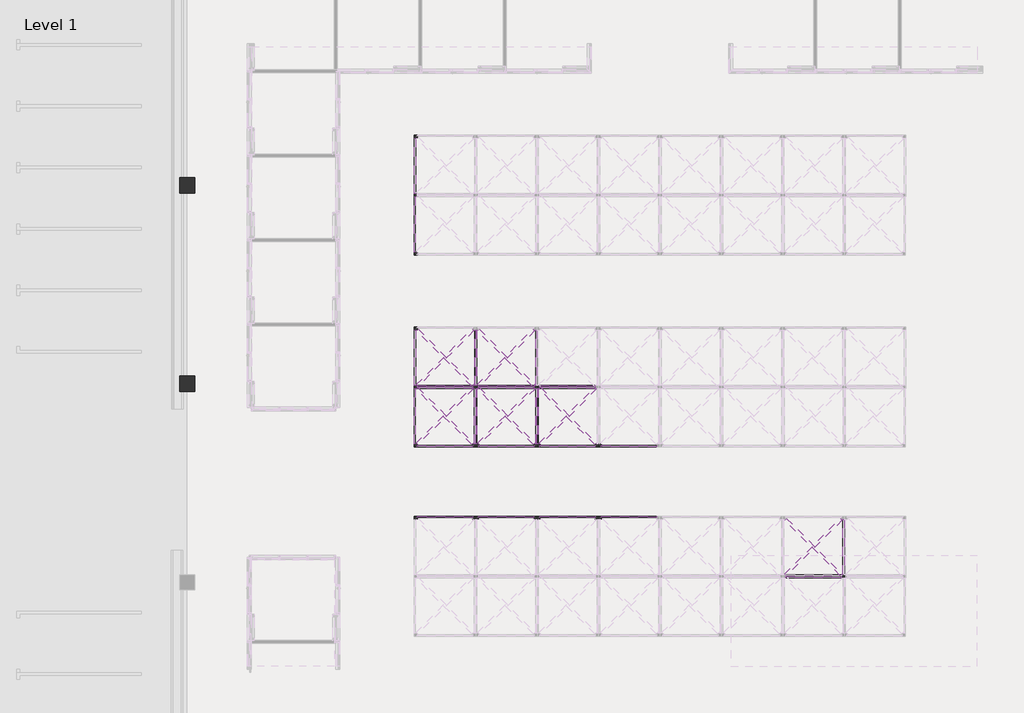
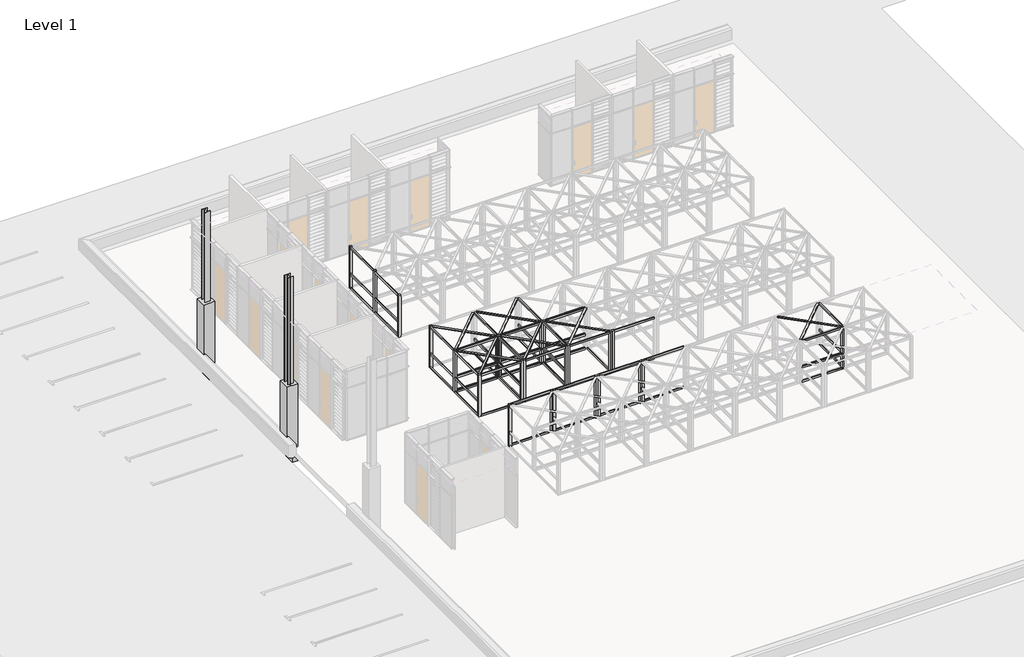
# One storey, part 21 of 32: 87 beams, 35 columns.
"""IFC4 building model written with IfcOpenShell, lengths in millimetres."""

from ifc_helpers import new_model, si_unit, point, frame, frame_2d, origin, place, context, project, spatial, polyline, circle_curve, trimmed, segment, composite_curve, outline, extrude, transform, mapped, element, save
from components import timber_gauged_nz_100_x_50_a05adcf6, timber_gauged_nz_100_x_50_e4b9d06e, timber_gauged_nz_100_x_50_66b63d81, timber_gauged_nz_100_x_50_718b6390, timber_gauged_nz_100_x_50_7774ab14, timber_gauged_nz_100_x_50_be6c7ca1, timber_gauged_nz_100_x_50_6be5a70a, timber_gauged_nz_100_x_50_7b7bee40, timber_gauged_nz_100_x_50_flat_212af973, timber_gauged_nz_100_x_50_flat_8016973c, column_timber_m_114x114_3b5997c2

model = new_model("IFC4")

# Units and contexts
model_context = context("Model", 3, world=origin())
ifc_project = project(units=[si_unit("LENGTHUNIT", "METRE", prefix="MILLI")], contexts=[model_context])

# Site, building, storey
site = spatial("IfcSite", under=ifc_project)
building = spatial("IfcBuilding", under=site)
storey = spatial("IfcBuildingStorey", under=building, Name="Level 1", Elevation=2800.0)

# Beams
placement = place(None, origin())
timber_gauged_nz_100_x_50_shape = timber_gauged_nz_100_x_50_a05adcf6(model_context)
element("IfcBeam", 1, ObjectType="Timber Gauged (NZ) : 100 x 50", at=placement, inside=storey, context=model_context, shape_type="MappedRepresentation", body=[
    mapped(timber_gauged_nz_100_x_50_shape, transform((-65204.0056755, -17582.1175809, 2847.0), x_axis=(-1.0, 0.0, 0.0), y_axis=(0.0, -1.0, 0.0), z_axis=(0.0, 0.0, 1.0))),
])
element("IfcBeam", 2, ObjectType="Timber Gauged (NZ) : 100 x 50", at=placement, inside=storey, context=model_context, shape_type="MappedRepresentation", body=[
    mapped(timber_gauged_nz_100_x_50_shape, transform((-79599.6556755, -10111.9011548, 2847.0), x_axis=(1.0, 0.0, 0.0), y_axis=(0.0, 1.0, 0.0), z_axis=(0.0, 0.0, 1.0))),
])
element("IfcBeam", 3, ObjectType="Timber Gauged (NZ) : 100 x 50", at=placement, inside=storey, context=model_context, shape_type="MappedRepresentation", body=[
    mapped(timber_gauged_nz_100_x_50_shape, transform((-77195.3056755, -10111.9011548, 2847.0), x_axis=(1.0, 0.0, 0.0), y_axis=(0.0, 1.0, 0.0), z_axis=(0.0, 0.0, 1.0))),
])
element("IfcBeam", 4, ObjectType="Timber Gauged (NZ) : 100 x 50", at=placement, inside=storey, context=model_context, shape_type="MappedRepresentation", body=[
    mapped(timber_gauged_nz_100_x_50_shape, transform((-74799.6556755, -10111.9011548, 2847.0), x_axis=(1.0, 0.0, 0.0), y_axis=(0.0, 1.0, 0.0), z_axis=(0.0, 0.0, 1.0))),
])
element("IfcBeam", 5, ObjectType="Timber Gauged (NZ) : 100 x 50", at=placement, inside=storey, context=model_context, shape_type="MappedRepresentation", body=[
    mapped(timber_gauged_nz_100_x_50_shape, transform((-74804.0056755, -10182.1175809, 2847.0), x_axis=(-1.0, 0.0, 0.0), y_axis=(0.0, -1.0, 0.0), z_axis=(0.0, 0.0, 1.0))),
])
element("IfcBeam", 6, ObjectType="Timber Gauged (NZ) : 100 x 50", at=placement, inside=storey, context=model_context, shape_type="MappedRepresentation", body=[
    mapped(timber_gauged_nz_100_x_50_shape, transform((-77208.3556755, -10182.1175809, 2847.0), x_axis=(-1.0, 0.0, 0.0), y_axis=(0.0, -1.0, 0.0), z_axis=(0.0, 0.0, 1.0))),
])
element("IfcBeam", 7, ObjectType="Timber Gauged (NZ) : 100 x 50", at=placement, inside=storey, context=model_context, shape_type="MappedRepresentation", body=[
    mapped(timber_gauged_nz_100_x_50_shape, transform((-79588.3556755, -10182.1175809, 2847.0), x_axis=(-1.0, 0.0, 0.0), y_axis=(0.0, -1.0, 0.0), z_axis=(0.0, 0.0, 1.0))),
])
timber_gauged_nz_100_x_50_2_shape = timber_gauged_nz_100_x_50_e4b9d06e(model_context)
element("IfcBeam", 8, ObjectType="Timber Gauged (NZ) : 100 x 50", at=placement, inside=storey, context=model_context, shape_type="MappedRepresentation", body=[
    mapped(timber_gauged_nz_100_x_50_2_shape, transform((-72386.4806755, -15229.1175809, 2847.0), x_axis=(-1.0, 0.0, 0.0), y_axis=(0.0, -1.0, 0.0), z_axis=(0.0, 0.0, 1.0))),
])
element("IfcBeam", 9, ObjectType="Timber Gauged (NZ) : 100 x 50", at=placement, inside=storey, context=model_context, shape_type="MappedRepresentation", body=[
    mapped(timber_gauged_nz_100_x_50_2_shape, transform((-74790.8306755, -15229.1175809, 2847.0), x_axis=(-1.0, 0.0, 0.0), y_axis=(0.0, -1.0, 0.0), z_axis=(0.0, 0.0, 1.0))),
])
element("IfcBeam", 10, ObjectType="Timber Gauged (NZ) : 100 x 50", at=placement, inside=storey, context=model_context, shape_type="MappedRepresentation", body=[
    mapped(timber_gauged_nz_100_x_50_2_shape, transform((-77195.1806755, -15229.1175809, 2847.0), x_axis=(-1.0, 0.0, 0.0), y_axis=(0.0, -1.0, 0.0), z_axis=(0.0, 0.0, 1.0))),
])
element("IfcBeam", 11, ObjectType="Timber Gauged (NZ) : 100 x 50", at=placement, inside=storey, context=model_context, shape_type="MappedRepresentation", body=[
    mapped(timber_gauged_nz_100_x_50_2_shape, transform((-79575.1806755, -15229.1175809, 2847.0), x_axis=(-1.0, 0.0, 0.0), y_axis=(0.0, -1.0, 0.0), z_axis=(0.0, 0.0, 1.0))),
])
element("IfcBeam", 12, ObjectType="Timber Gauged (NZ) : 100 x 50", at=placement, inside=storey, context=model_context, shape_type="MappedRepresentation", body=[
    mapped(timber_gauged_nz_100_x_50_2_shape, transform((-79612.8306755, -12464.9011548, 2847.0), x_axis=(1.0, 0.0, 0.0), y_axis=(0.0, 1.0, 0.0), z_axis=(0.0, 0.0, 1.0))),
])
element("IfcBeam", 13, ObjectType="Timber Gauged (NZ) : 100 x 50", at=placement, inside=storey, context=model_context, shape_type="MappedRepresentation", body=[
    mapped(timber_gauged_nz_100_x_50_2_shape, transform((-77208.4806755, -12464.9011548, 2847.0), x_axis=(1.0, 0.0, 0.0), y_axis=(0.0, 1.0, 0.0), z_axis=(0.0, 0.0, 1.0))),
])
element("IfcBeam", 14, ObjectType="Timber Gauged (NZ) : 100 x 50", at=placement, inside=storey, context=model_context, shape_type="MappedRepresentation", body=[
    mapped(timber_gauged_nz_100_x_50_2_shape, transform((-74812.8306755, -12464.9011548, 2847.0), x_axis=(1.0, 0.0, 0.0), y_axis=(0.0, 1.0, 0.0), z_axis=(0.0, 0.0, 1.0))),
])
element("IfcBeam", 15, ObjectType="Timber Gauged (NZ) : 100 x 50", at=placement, inside=storey, context=model_context, shape_type="MappedRepresentation", body=[
    mapped(timber_gauged_nz_100_x_50_2_shape, transform((-72412.8306755, -12464.9011548, 2847.0), x_axis=(1.0, 0.0, 0.0), y_axis=(0.0, 1.0, 0.0), z_axis=(0.0, 0.0, 1.0))),
])
timber_gauged_nz_100_x_50_3_shape = timber_gauged_nz_100_x_50_66b63d81(model_context)
element("IfcBeam", 16, ObjectType="Timber Gauged (NZ) : 100 x 50", at=placement, inside=storey, context=model_context, shape_type="MappedRepresentation", body=[
    mapped(timber_gauged_nz_100_x_50_3_shape, transform((-64027.5056755, -16405.6175809, 2847.0), x_axis=(0.0, 1.0, 0.0), y_axis=(-1.0, 0.0, 0.0), z_axis=(0.0, 0.0, 1.0))),
])
element("IfcBeam", 17, ObjectType="Timber Gauged (NZ) : 100 x 50", at=placement, inside=storey, context=model_context, shape_type="MappedRepresentation", body=[
    mapped(timber_gauged_nz_100_x_50_3_shape, transform((-80776.1556755, -11288.4011548, 2847.0), x_axis=(0.0, -1.0, 0.0), y_axis=(1.0, 0.0, 0.0), z_axis=(0.0, 0.0, 1.0))),
])
element("IfcBeam", 18, ObjectType="Timber Gauged (NZ) : 100 x 50", at=placement, inside=storey, context=model_context, shape_type="MappedRepresentation", body=[
    mapped(timber_gauged_nz_100_x_50_3_shape, transform((-78371.8056755, -11288.4011548, 2847.0), x_axis=(0.0, -1.0, 0.0), y_axis=(1.0, 0.0, 0.0), z_axis=(0.0, 0.0, 1.0))),
])
element("IfcBeam", 19, ObjectType="Timber Gauged (NZ) : 100 x 50", at=placement, inside=storey, context=model_context, shape_type="MappedRepresentation", body=[
    mapped(timber_gauged_nz_100_x_50_3_shape, transform((-75976.1556755, -11288.4011548, 2847.0), x_axis=(0.0, -1.0, 0.0), y_axis=(1.0, 0.0, 0.0), z_axis=(0.0, 0.0, 1.0))),
])
element("IfcBeam", 20, ObjectType="Timber Gauged (NZ) : 100 x 50", at=placement, inside=storey, context=model_context, shape_type="MappedRepresentation", body=[
    mapped(timber_gauged_nz_100_x_50_3_shape, transform((-76031.8556755, -9005.6175809, 2847.0), x_axis=(0.0, 1.0, 0.0), y_axis=(-1.0, 0.0, 0.0), z_axis=(0.0, 0.0, 1.0))),
])
element("IfcBeam", 21, ObjectType="Timber Gauged (NZ) : 100 x 50", at=placement, inside=storey, context=model_context, shape_type="MappedRepresentation", body=[
    mapped(timber_gauged_nz_100_x_50_3_shape, transform((-78411.8556755, -9005.6175809, 2847.0), x_axis=(0.0, 1.0, 0.0), y_axis=(-1.0, 0.0, 0.0), z_axis=(0.0, 0.0, 1.0))),
])
element("IfcBeam", 22, ObjectType="Timber Gauged (NZ) : 100 x 50", at=placement, inside=storey, context=model_context, shape_type="MappedRepresentation", body=[
    mapped(timber_gauged_nz_100_x_50_3_shape, transform((-80776.1556755, -3788.4011548, 2847.0), x_axis=(0.0, -1.0, 0.0), y_axis=(1.0, 0.0, 0.0), z_axis=(0.0, 0.0, 1.0))),
])
element("IfcBeam", 23, ObjectType="Timber Gauged (NZ) : 100 x 50", at=placement, inside=storey, context=model_context, shape_type="MappedRepresentation", body=[
    mapped(timber_gauged_nz_100_x_50_3_shape, transform((-78423.1556755, -11288.4011548, 2847.0), x_axis=(0.0, -1.0, 0.0), y_axis=(1.0, 0.0, 0.0), z_axis=(0.0, 0.0, 1.0))),
])
element("IfcBeam", 24, ObjectType="Timber Gauged (NZ) : 100 x 50", at=placement, inside=storey, context=model_context, shape_type="MappedRepresentation", body=[
    mapped(timber_gauged_nz_100_x_50_3_shape, transform((-76018.8056755, -11288.4011548, 2847.0), x_axis=(0.0, -1.0, 0.0), y_axis=(1.0, 0.0, 0.0), z_axis=(0.0, 0.0, 1.0))),
])
element("IfcBeam", 25, ObjectType="Timber Gauged (NZ) : 100 x 50", at=placement, inside=storey, context=model_context, shape_type="MappedRepresentation", body=[
    mapped(timber_gauged_nz_100_x_50_3_shape, transform((-73623.1556755, -11288.4011548, 2847.0), x_axis=(0.0, -1.0, 0.0), y_axis=(1.0, 0.0, 0.0), z_axis=(0.0, 0.0, 1.0))),
])
element("IfcBeam", 26, ObjectType="Timber Gauged (NZ) : 100 x 50", at=placement, inside=storey, context=model_context, shape_type="MappedRepresentation", body=[
    mapped(timber_gauged_nz_100_x_50_3_shape, transform((-78384.8556755, -9005.6175809, 2847.0), x_axis=(0.0, 1.0, 0.0), y_axis=(-1.0, 0.0, 0.0), z_axis=(0.0, 0.0, 1.0))),
])
element("IfcBeam", 27, ObjectType="Timber Gauged (NZ) : 100 x 50", at=placement, inside=storey, context=model_context, shape_type="MappedRepresentation", body=[
    mapped(timber_gauged_nz_100_x_50_3_shape, transform((-80764.8556755, -9005.6175809, 2847.0), x_axis=(0.0, 1.0, 0.0), y_axis=(-1.0, 0.0, 0.0), z_axis=(0.0, 0.0, 1.0))),
])
element("IfcBeam", 28, ObjectType="Timber Gauged (NZ) : 100 x 50", at=placement, inside=storey, context=model_context, shape_type="MappedRepresentation", body=[
    mapped(timber_gauged_nz_100_x_50_3_shape, transform((-80764.8556755, -1505.6175809, 2847.0), x_axis=(0.0, 1.0, 0.0), y_axis=(-1.0, 0.0, 0.0), z_axis=(0.0, 0.0, 1.0))),
])
timber_gauged_nz_100_x_50_4_shape = timber_gauged_nz_100_x_50_718b6390(model_context)
element("IfcBeam", 29, ObjectType="Timber Gauged (NZ) : 100 x 50", at=placement, inside=storey, context=model_context, shape_type="MappedRepresentation", body=[
    mapped(timber_gauged_nz_100_x_50_4_shape, transform((-65198.8056755, -17511.9011548, 3653.0), x_axis=(1.0, 0.0, 0.0), y_axis=(0.0, 1.0, 0.0), z_axis=(0.0, 0.0, 1.0))),
])
element("IfcBeam", 30, ObjectType="Timber Gauged (NZ) : 100 x 50", at=placement, inside=storey, context=model_context, shape_type="MappedRepresentation", body=[
    mapped(timber_gauged_nz_100_x_50_4_shape, transform((-65196.1556755, -17582.1175809, 5153.0), x_axis=(-1.0, 0.0, 0.0), y_axis=(0.0, -1.0, 0.0), z_axis=(0.0, 0.0, 1.0))),
])
element("IfcBeam", 31, ObjectType="Timber Gauged (NZ) : 100 x 50", at=placement, inside=storey, context=model_context, shape_type="MappedRepresentation", body=[
    mapped(timber_gauged_nz_100_x_50_4_shape, transform((-65196.1556755, -17582.1175809, 3653.0), x_axis=(-1.0, 0.0, 0.0), y_axis=(0.0, -1.0, 0.0), z_axis=(0.0, 0.0, 1.0))),
])
element("IfcBeam", 32, ObjectType="Timber Gauged (NZ) : 100 x 50", at=placement, inside=storey, context=model_context, shape_type="MappedRepresentation", body=[
    mapped(timber_gauged_nz_100_x_50_4_shape, transform((-79607.5056755, -10111.9011548, 5153.0), x_axis=(1.0, 0.0, 0.0), y_axis=(0.0, 1.0, 0.0), z_axis=(0.0, 0.0, 1.0))),
])
element("IfcBeam", 33, ObjectType="Timber Gauged (NZ) : 100 x 50", at=placement, inside=storey, context=model_context, shape_type="MappedRepresentation", body=[
    mapped(timber_gauged_nz_100_x_50_4_shape, transform((-79607.5056755, -10111.9011548, 3653.0), x_axis=(1.0, 0.0, 0.0), y_axis=(0.0, 1.0, 0.0), z_axis=(0.0, 0.0, 1.0))),
])
element("IfcBeam", 34, ObjectType="Timber Gauged (NZ) : 100 x 50", at=placement, inside=storey, context=model_context, shape_type="MappedRepresentation", body=[
    mapped(timber_gauged_nz_100_x_50_4_shape, transform((-77203.1556755, -10111.9011548, 5153.0), x_axis=(1.0, 0.0, 0.0), y_axis=(0.0, 1.0, 0.0), z_axis=(0.0, 0.0, 1.0))),
])
element("IfcBeam", 35, ObjectType="Timber Gauged (NZ) : 100 x 50", at=placement, inside=storey, context=model_context, shape_type="MappedRepresentation", body=[
    mapped(timber_gauged_nz_100_x_50_4_shape, transform((-77203.1556755, -10111.9011548, 3653.0), x_axis=(1.0, 0.0, 0.0), y_axis=(0.0, 1.0, 0.0), z_axis=(0.0, 0.0, 1.0))),
])
element("IfcBeam", 36, ObjectType="Timber Gauged (NZ) : 100 x 50", at=placement, inside=storey, context=model_context, shape_type="MappedRepresentation", body=[
    mapped(timber_gauged_nz_100_x_50_4_shape, transform((-74807.5056755, -10111.9011548, 5153.0), x_axis=(1.0, 0.0, 0.0), y_axis=(0.0, 1.0, 0.0), z_axis=(0.0, 0.0, 1.0))),
])
element("IfcBeam", 37, ObjectType="Timber Gauged (NZ) : 100 x 50", at=placement, inside=storey, context=model_context, shape_type="MappedRepresentation", body=[
    mapped(timber_gauged_nz_100_x_50_4_shape, transform((-74807.5056755, -10111.9011548, 3653.0), x_axis=(1.0, 0.0, 0.0), y_axis=(0.0, 1.0, 0.0), z_axis=(0.0, 0.0, 1.0))),
])
element("IfcBeam", 38, ObjectType="Timber Gauged (NZ) : 100 x 50", at=placement, inside=storey, context=model_context, shape_type="MappedRepresentation", body=[
    mapped(timber_gauged_nz_100_x_50_4_shape, transform((-74796.1556755, -10182.1175809, 5153.0), x_axis=(-1.0, 0.0, 0.0), y_axis=(0.0, -1.0, 0.0), z_axis=(0.0, 0.0, 1.0))),
])
element("IfcBeam", 39, ObjectType="Timber Gauged (NZ) : 100 x 50", at=placement, inside=storey, context=model_context, shape_type="MappedRepresentation", body=[
    mapped(timber_gauged_nz_100_x_50_4_shape, transform((-74796.1556755, -10182.1175809, 3653.0), x_axis=(-1.0, 0.0, 0.0), y_axis=(0.0, -1.0, 0.0), z_axis=(0.0, 0.0, 1.0))),
])
element("IfcBeam", 40, ObjectType="Timber Gauged (NZ) : 100 x 50", at=placement, inside=storey, context=model_context, shape_type="MappedRepresentation", body=[
    mapped(timber_gauged_nz_100_x_50_4_shape, transform((-77200.5056755, -10182.1175809, 5153.0), x_axis=(-1.0, 0.0, 0.0), y_axis=(0.0, -1.0, 0.0), z_axis=(0.0, 0.0, 1.0))),
])
element("IfcBeam", 41, ObjectType="Timber Gauged (NZ) : 100 x 50", at=placement, inside=storey, context=model_context, shape_type="MappedRepresentation", body=[
    mapped(timber_gauged_nz_100_x_50_4_shape, transform((-77200.5056755, -10182.1175809, 3653.0), x_axis=(-1.0, 0.0, 0.0), y_axis=(0.0, -1.0, 0.0), z_axis=(0.0, 0.0, 1.0))),
])
element("IfcBeam", 42, ObjectType="Timber Gauged (NZ) : 100 x 50", at=placement, inside=storey, context=model_context, shape_type="MappedRepresentation", body=[
    mapped(timber_gauged_nz_100_x_50_4_shape, transform((-79580.5056755, -10182.1175809, 5153.0), x_axis=(-1.0, 0.0, 0.0), y_axis=(0.0, -1.0, 0.0), z_axis=(0.0, 0.0, 1.0))),
])
element("IfcBeam", 43, ObjectType="Timber Gauged (NZ) : 100 x 50", at=placement, inside=storey, context=model_context, shape_type="MappedRepresentation", body=[
    mapped(timber_gauged_nz_100_x_50_4_shape, transform((-79580.5056755, -10182.1175809, 3653.0), x_axis=(-1.0, 0.0, 0.0), y_axis=(0.0, -1.0, 0.0), z_axis=(0.0, 0.0, 1.0))),
])
timber_gauged_nz_100_x_50_5_shape = timber_gauged_nz_100_x_50_7774ab14(model_context)
element("IfcBeam", 44, ObjectType="Timber Gauged (NZ) : 100 x 50", at=placement, inside=storey, context=model_context, shape_type="MappedRepresentation", body=[
    mapped(timber_gauged_nz_100_x_50_5_shape, transform((-72404.3056755, -15229.1175809, 5153.0), x_axis=(-1.0, 0.0, 0.0), y_axis=(0.0, -1.0, 0.0), z_axis=(0.0, 0.0, 1.0))),
])
element("IfcBeam", 45, ObjectType="Timber Gauged (NZ) : 100 x 50", at=placement, inside=storey, context=model_context, shape_type="MappedRepresentation", body=[
    mapped(timber_gauged_nz_100_x_50_5_shape, transform((-74808.6556755, -15229.1175809, 5153.0), x_axis=(-1.0, 0.0, 0.0), y_axis=(0.0, -1.0, 0.0), z_axis=(0.0, 0.0, 1.0))),
])
element("IfcBeam", 46, ObjectType="Timber Gauged (NZ) : 100 x 50", at=placement, inside=storey, context=model_context, shape_type="MappedRepresentation", body=[
    mapped(timber_gauged_nz_100_x_50_5_shape, transform((-77213.0056755, -15229.1175809, 5153.0), x_axis=(-1.0, 0.0, 0.0), y_axis=(0.0, -1.0, 0.0), z_axis=(0.0, 0.0, 1.0))),
])
element("IfcBeam", 47, ObjectType="Timber Gauged (NZ) : 100 x 50", at=placement, inside=storey, context=model_context, shape_type="MappedRepresentation", body=[
    mapped(timber_gauged_nz_100_x_50_5_shape, transform((-79593.0056755, -15229.1175809, 5153.0), x_axis=(-1.0, 0.0, 0.0), y_axis=(0.0, -1.0, 0.0), z_axis=(0.0, 0.0, 1.0))),
])
element("IfcBeam", 48, ObjectType="Timber Gauged (NZ) : 100 x 50", at=placement, inside=storey, context=model_context, shape_type="MappedRepresentation", body=[
    mapped(timber_gauged_nz_100_x_50_5_shape, transform((-79595.0056755, -12464.9011548, 5153.0), x_axis=(1.0, 0.0, 0.0), y_axis=(0.0, 1.0, 0.0), z_axis=(0.0, 0.0, 1.0))),
])
element("IfcBeam", 49, ObjectType="Timber Gauged (NZ) : 100 x 50", at=placement, inside=storey, context=model_context, shape_type="MappedRepresentation", body=[
    mapped(timber_gauged_nz_100_x_50_5_shape, transform((-77190.6556755, -12464.9011548, 5153.0), x_axis=(1.0, 0.0, 0.0), y_axis=(0.0, 1.0, 0.0), z_axis=(0.0, 0.0, 1.0))),
])
element("IfcBeam", 50, ObjectType="Timber Gauged (NZ) : 100 x 50", at=placement, inside=storey, context=model_context, shape_type="MappedRepresentation", body=[
    mapped(timber_gauged_nz_100_x_50_5_shape, transform((-74795.0056755, -12464.9011548, 5153.0), x_axis=(1.0, 0.0, 0.0), y_axis=(0.0, 1.0, 0.0), z_axis=(0.0, 0.0, 1.0))),
])
element("IfcBeam", 51, ObjectType="Timber Gauged (NZ) : 100 x 50", at=placement, inside=storey, context=model_context, shape_type="MappedRepresentation", body=[
    mapped(timber_gauged_nz_100_x_50_5_shape, transform((-72395.0056755, -12464.9011548, 5153.0), x_axis=(1.0, 0.0, 0.0), y_axis=(0.0, 1.0, 0.0), z_axis=(0.0, 0.0, 1.0))),
])
timber_gauged_nz_100_x_50_6_shape = timber_gauged_nz_100_x_50_be6c7ca1(model_context)
element("IfcBeam", 52, ObjectType="Timber Gauged (NZ) : 100 x 50", at=placement, inside=storey, context=model_context, shape_type="MappedRepresentation", body=[
    mapped(timber_gauged_nz_100_x_50_6_shape, transform((-64027.5056755, -16474.1175809, 5153.0), x_axis=(0.0, 1.0, 0.0), y_axis=(-1.0, 0.0, 0.0), z_axis=(0.0, 0.0, 1.0))),
])
element("IfcBeam", 53, ObjectType="Timber Gauged (NZ) : 100 x 50", at=placement, inside=storey, context=model_context, shape_type="MappedRepresentation", body=[
    mapped(timber_gauged_nz_100_x_50_6_shape, transform((-80776.1556755, -11219.9011548, 5153.0), x_axis=(0.0, -1.0, 0.0), y_axis=(1.0, 0.0, 0.0), z_axis=(0.0, 0.0, 1.0))),
])
element("IfcBeam", 54, ObjectType="Timber Gauged (NZ) : 100 x 50", at=placement, inside=storey, context=model_context, shape_type="MappedRepresentation", body=[
    mapped(timber_gauged_nz_100_x_50_6_shape, transform((-78371.8056755, -11219.9011548, 5153.0), x_axis=(0.0, -1.0, 0.0), y_axis=(1.0, 0.0, 0.0), z_axis=(0.0, 0.0, 1.0))),
])
element("IfcBeam", 55, ObjectType="Timber Gauged (NZ) : 100 x 50", at=placement, inside=storey, context=model_context, shape_type="MappedRepresentation", body=[
    mapped(timber_gauged_nz_100_x_50_6_shape, transform((-75976.1556755, -11219.9011548, 5153.0), x_axis=(0.0, -1.0, 0.0), y_axis=(1.0, 0.0, 0.0), z_axis=(0.0, 0.0, 1.0))),
])
element("IfcBeam", 56, ObjectType="Timber Gauged (NZ) : 100 x 50", at=placement, inside=storey, context=model_context, shape_type="MappedRepresentation", body=[
    mapped(timber_gauged_nz_100_x_50_6_shape, transform((-76031.8556755, -9074.1175809, 5153.0), x_axis=(0.0, 1.0, 0.0), y_axis=(-1.0, 0.0, 0.0), z_axis=(0.0, 0.0, 1.0))),
])
element("IfcBeam", 57, ObjectType="Timber Gauged (NZ) : 100 x 50", at=placement, inside=storey, context=model_context, shape_type="MappedRepresentation", body=[
    mapped(timber_gauged_nz_100_x_50_6_shape, transform((-78411.8556755, -9074.1175809, 5153.0), x_axis=(0.0, 1.0, 0.0), y_axis=(-1.0, 0.0, 0.0), z_axis=(0.0, 0.0, 1.0))),
])
element("IfcBeam", 58, ObjectType="Timber Gauged (NZ) : 100 x 50", at=placement, inside=storey, context=model_context, shape_type="MappedRepresentation", body=[
    mapped(timber_gauged_nz_100_x_50_6_shape, transform((-80776.1556755, -3719.9011548, 5153.0), x_axis=(0.0, -1.0, 0.0), y_axis=(1.0, 0.0, 0.0), z_axis=(0.0, 0.0, 1.0))),
])
timber_gauged_nz_100_x_50_7_shape = timber_gauged_nz_100_x_50_6be5a70a(model_context)
element("IfcBeam", 59, ObjectType="Timber Gauged (NZ) : 100 x 50", at=placement, inside=storey, context=model_context, shape_type="MappedRepresentation", body=[
    mapped(timber_gauged_nz_100_x_50_7_shape, transform((-78423.1556755, -11264.9011548, 5153.0), x_axis=(0.0, -1.0, 0.0), y_axis=(1.0, 0.0, 0.0), z_axis=(0.0, 0.0, 1.0))),
])
element("IfcBeam", 60, ObjectType="Timber Gauged (NZ) : 100 x 50", at=placement, inside=storey, context=model_context, shape_type="MappedRepresentation", body=[
    mapped(timber_gauged_nz_100_x_50_7_shape, transform((-76018.8056755, -11264.9011548, 5153.0), x_axis=(0.0, -1.0, 0.0), y_axis=(1.0, 0.0, 0.0), z_axis=(0.0, 0.0, 1.0))),
])
element("IfcBeam", 61, ObjectType="Timber Gauged (NZ) : 100 x 50", at=placement, inside=storey, context=model_context, shape_type="MappedRepresentation", body=[
    mapped(timber_gauged_nz_100_x_50_7_shape, transform((-78384.8556755, -9029.1175809, 5153.0), x_axis=(0.0, 1.0, 0.0), y_axis=(-1.0, 0.0, 0.0), z_axis=(0.0, 0.0, 1.0))),
])
element("IfcBeam", 62, ObjectType="Timber Gauged (NZ) : 100 x 50", at=placement, inside=storey, context=model_context, shape_type="MappedRepresentation", body=[
    mapped(timber_gauged_nz_100_x_50_7_shape, transform((-80764.8556755, -9029.1175809, 5153.0), x_axis=(0.0, 1.0, 0.0), y_axis=(-1.0, 0.0, 0.0), z_axis=(0.0, 0.0, 1.0))),
])
element("IfcBeam", 63, ObjectType="Timber Gauged (NZ) : 100 x 50", at=placement, inside=storey, context=model_context, shape_type="MappedRepresentation", body=[
    mapped(timber_gauged_nz_100_x_50_7_shape, transform((-80764.8556755, -1529.1175809, 5153.0), x_axis=(0.0, 1.0, 0.0), y_axis=(-1.0, 0.0, 0.0), z_axis=(0.0, 0.0, 1.0))),
])
timber_gauged_nz_100_x_50_8_shape = timber_gauged_nz_100_x_50_7b7bee40(model_context)
element("IfcBeam", 64, ObjectType="Timber Gauged (NZ) : 100 x 50", at=placement, inside=storey, context=model_context, shape_type="MappedRepresentation", body=[
    mapped(timber_gauged_nz_100_x_50_8_shape, transform((-64027.5056755, -16349.1175809, 3653.0), x_axis=(0.0, 1.0, 0.0), y_axis=(-1.0, 0.0, 0.0), z_axis=(0.0, 0.0, 1.0))),
])
element("IfcBeam", 65, ObjectType="Timber Gauged (NZ) : 100 x 50", at=placement, inside=storey, context=model_context, shape_type="MappedRepresentation", body=[
    mapped(timber_gauged_nz_100_x_50_8_shape, transform((-80776.1556755, -11344.9011548, 3653.0), x_axis=(0.0, -1.0, 0.0), y_axis=(1.0, 0.0, 0.0), z_axis=(0.0, 0.0, 1.0))),
])
element("IfcBeam", 66, ObjectType="Timber Gauged (NZ) : 100 x 50", at=placement, inside=storey, context=model_context, shape_type="MappedRepresentation", body=[
    mapped(timber_gauged_nz_100_x_50_8_shape, transform((-78371.8056755, -11344.9011548, 3653.0), x_axis=(0.0, -1.0, 0.0), y_axis=(1.0, 0.0, 0.0), z_axis=(0.0, 0.0, 1.0))),
])
element("IfcBeam", 67, ObjectType="Timber Gauged (NZ) : 100 x 50", at=placement, inside=storey, context=model_context, shape_type="MappedRepresentation", body=[
    mapped(timber_gauged_nz_100_x_50_8_shape, transform((-75976.1556755, -11344.9011548, 3653.0), x_axis=(0.0, -1.0, 0.0), y_axis=(1.0, 0.0, 0.0), z_axis=(0.0, 0.0, 1.0))),
])
element("IfcBeam", 68, ObjectType="Timber Gauged (NZ) : 100 x 50", at=placement, inside=storey, context=model_context, shape_type="MappedRepresentation", body=[
    mapped(timber_gauged_nz_100_x_50_8_shape, transform((-76031.8556755, -8949.1175809, 3653.0), x_axis=(0.0, 1.0, 0.0), y_axis=(-1.0, 0.0, 0.0), z_axis=(0.0, 0.0, 1.0))),
])
element("IfcBeam", 69, ObjectType="Timber Gauged (NZ) : 100 x 50", at=placement, inside=storey, context=model_context, shape_type="MappedRepresentation", body=[
    mapped(timber_gauged_nz_100_x_50_8_shape, transform((-78411.8556755, -8949.1175809, 3653.0), x_axis=(0.0, 1.0, 0.0), y_axis=(-1.0, 0.0, 0.0), z_axis=(0.0, 0.0, 1.0))),
])
element("IfcBeam", 70, ObjectType="Timber Gauged (NZ) : 100 x 50", at=placement, inside=storey, context=model_context, shape_type="MappedRepresentation", body=[
    mapped(timber_gauged_nz_100_x_50_8_shape, transform((-80776.1556755, -3844.9011548, 3653.0), x_axis=(0.0, -1.0, 0.0), y_axis=(1.0, 0.0, 0.0), z_axis=(0.0, 0.0, 1.0))),
])
element("IfcBeam", 71, ObjectType="Timber Gauged (NZ) : 100 x 50", at=placement, inside=storey, context=model_context, shape_type="MappedRepresentation", body=[
    mapped(timber_gauged_nz_100_x_50_7_shape, transform((-78423.1556755, -11264.7011548, 3653.0), x_axis=(0.0, -1.0, 0.0), y_axis=(1.0, 0.0, 0.0), z_axis=(0.0, 0.0, 1.0))),
])
element("IfcBeam", 72, ObjectType="Timber Gauged (NZ) : 100 x 50", at=placement, inside=storey, context=model_context, shape_type="MappedRepresentation", body=[
    mapped(timber_gauged_nz_100_x_50_7_shape, transform((-76018.8056755, -11264.7011548, 3653.0), x_axis=(0.0, -1.0, 0.0), y_axis=(1.0, 0.0, 0.0), z_axis=(0.0, 0.0, 1.0))),
])
element("IfcBeam", 73, ObjectType="Timber Gauged (NZ) : 100 x 50", at=placement, inside=storey, context=model_context, shape_type="MappedRepresentation", body=[
    mapped(timber_gauged_nz_100_x_50_7_shape, transform((-78384.8556755, -9029.3175809, 3653.0), x_axis=(0.0, 1.0, 0.0), y_axis=(-1.0, 0.0, 0.0), z_axis=(0.0, 0.0, 1.0))),
])
element("IfcBeam", 74, ObjectType="Timber Gauged (NZ) : 100 x 50", at=placement, inside=storey, context=model_context, shape_type="MappedRepresentation", body=[
    mapped(timber_gauged_nz_100_x_50_7_shape, transform((-80764.8556755, -9029.3175809, 3653.0), x_axis=(0.0, 1.0, 0.0), y_axis=(-1.0, 0.0, 0.0), z_axis=(0.0, 0.0, 1.0))),
])
element("IfcBeam", 75, ObjectType="Timber Gauged (NZ) : 100 x 50", at=placement, inside=storey, context=model_context, shape_type="MappedRepresentation", body=[
    mapped(timber_gauged_nz_100_x_50_7_shape, transform((-80764.8556755, -1529.3175809, 3653.0), x_axis=(0.0, 1.0, 0.0), y_axis=(-1.0, 0.0, 0.0), z_axis=(0.0, 0.0, 1.0))),
])
timber_gauged_nz_100_x_50_flat_shape = timber_gauged_nz_100_x_50_flat_212af973(model_context)
element("IfcBeam", 76, ObjectType="Timber Gauged (NZ) : 100 x 50 Flat", at=placement, inside=storey, context=model_context, shape_type="MappedRepresentation", body=[
    mapped(timber_gauged_nz_100_x_50_flat_shape, transform((-65208.2463365, -16410.5048659, 5176.5), x_axis=(-0.7071067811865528, -0.7071067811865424, 0.0), y_axis=(0.7071067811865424, -0.7071067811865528, 0.0), z_axis=(0.0, 0.0, 1.0))),
])
element("IfcBeam", 77, ObjectType="Timber Gauged (NZ) : 100 x 50 Flat", at=placement, inside=storey, context=model_context, shape_type="MappedRepresentation", body=[
    mapped(timber_gauged_nz_100_x_50_flat_shape, transform((-79595.4150144, -11283.5138698, 5176.5), x_axis=(0.707106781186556, 0.7071067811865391, 0.0), y_axis=(-0.7071067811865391, 0.707106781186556, 0.0), z_axis=(0.0, 0.0, 1.0))),
])
element("IfcBeam", 78, ObjectType="Timber Gauged (NZ) : 100 x 50 Flat", at=placement, inside=storey, context=model_context, shape_type="MappedRepresentation", body=[
    mapped(timber_gauged_nz_100_x_50_flat_shape, transform((-77191.0650144, -11283.5138698, 5176.5), x_axis=(0.707106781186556, 0.7071067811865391, 0.0), y_axis=(-0.7071067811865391, 0.707106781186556, 0.0), z_axis=(0.0, 0.0, 1.0))),
])
element("IfcBeam", 79, ObjectType="Timber Gauged (NZ) : 100 x 50 Flat", at=placement, inside=storey, context=model_context, shape_type="MappedRepresentation", body=[
    mapped(timber_gauged_nz_100_x_50_flat_shape, transform((-74795.4150144, -11283.5138698, 5176.5), x_axis=(0.707106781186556, 0.7071067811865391, 0.0), y_axis=(-0.7071067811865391, 0.707106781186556, 0.0), z_axis=(0.0, 0.0, 1.0))),
])
element("IfcBeam", 80, ObjectType="Timber Gauged (NZ) : 100 x 50 Flat", at=placement, inside=storey, context=model_context, shape_type="MappedRepresentation", body=[
    mapped(timber_gauged_nz_100_x_50_flat_shape, transform((-77212.5963365, -9010.5048659, 5176.5), x_axis=(-0.7071067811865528, -0.7071067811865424, 0.0), y_axis=(0.7071067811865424, -0.7071067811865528, 0.0), z_axis=(0.0, 0.0, 1.0))),
])
element("IfcBeam", 81, ObjectType="Timber Gauged (NZ) : 100 x 50 Flat", at=placement, inside=storey, context=model_context, shape_type="MappedRepresentation", body=[
    mapped(timber_gauged_nz_100_x_50_flat_shape, transform((-79592.5963365, -9010.5048659, 5176.5), x_axis=(-0.7071067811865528, -0.7071067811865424, 0.0), y_axis=(0.7071067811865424, -0.7071067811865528, 0.0), z_axis=(0.0, 0.0, 1.0))),
])
timber_gauged_nz_100_x_50_flat_2_shape = timber_gauged_nz_100_x_50_flat_8016973c(model_context)
element("IfcBeam", 82, ObjectType="Timber Gauged (NZ) : 100 x 50 Flat", at=placement, inside=storey, context=model_context, shape_type="MappedRepresentation", body=[
    mapped(timber_gauged_nz_100_x_50_flat_2_shape, transform((-65154.5062211, -16455.7596999, 5176.5), x_axis=(-0.7071067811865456, 0.7071067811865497, 0.0), y_axis=(-0.7071067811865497, -0.7071067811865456, 0.0), z_axis=(0.0, 0.0, 1.0))),
])
element("IfcBeam", 83, ObjectType="Timber Gauged (NZ) : 100 x 50 Flat", at=placement, inside=storey, context=model_context, shape_type="MappedRepresentation", body=[
    mapped(timber_gauged_nz_100_x_50_flat_2_shape, transform((-79649.1551298, -11238.2590359, 5176.5), x_axis=(0.7071067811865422, -0.7071067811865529, 0.0), y_axis=(0.7071067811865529, 0.7071067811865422, 0.0), z_axis=(0.0, 0.0, 1.0))),
])
element("IfcBeam", 84, ObjectType="Timber Gauged (NZ) : 100 x 50 Flat", at=placement, inside=storey, context=model_context, shape_type="MappedRepresentation", body=[
    mapped(timber_gauged_nz_100_x_50_flat_2_shape, transform((-77244.8051298, -11238.2590359, 5176.5), x_axis=(0.7071067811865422, -0.7071067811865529, 0.0), y_axis=(0.7071067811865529, 0.7071067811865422, 0.0), z_axis=(0.0, 0.0, 1.0))),
])
element("IfcBeam", 85, ObjectType="Timber Gauged (NZ) : 100 x 50 Flat", at=placement, inside=storey, context=model_context, shape_type="MappedRepresentation", body=[
    mapped(timber_gauged_nz_100_x_50_flat_2_shape, transform((-74849.1551298, -11238.2590359, 5176.5), x_axis=(0.7071067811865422, -0.7071067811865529, 0.0), y_axis=(0.7071067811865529, 0.7071067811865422, 0.0), z_axis=(0.0, 0.0, 1.0))),
])
element("IfcBeam", 86, ObjectType="Timber Gauged (NZ) : 100 x 50 Flat", at=placement, inside=storey, context=model_context, shape_type="MappedRepresentation", body=[
    mapped(timber_gauged_nz_100_x_50_flat_2_shape, transform((-77158.8562211, -9055.7596999, 5176.5), x_axis=(-0.7071067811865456, 0.7071067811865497, 0.0), y_axis=(-0.7071067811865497, -0.7071067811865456, 0.0), z_axis=(0.0, 0.0, 1.0))),
])
element("IfcBeam", 87, ObjectType="Timber Gauged (NZ) : 100 x 50 Flat", at=placement, inside=storey, context=model_context, shape_type="MappedRepresentation", body=[
    mapped(timber_gauged_nz_100_x_50_flat_2_shape, transform((-79538.8562211, -9055.7596999, 5176.5), x_axis=(-0.7071067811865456, 0.7071067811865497, 0.0), y_axis=(-0.7071067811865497, -0.7071067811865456, 0.0), z_axis=(0.0, 0.0, 1.0))),
])

# Columns
element("IfcColumn", 88, ObjectType="Column Concrete-Square (M) : 600 x 600mm", at=placement, inside=storey, context=model_context, shape_type="SweptSolid", body=[
    extrude(outline(polyline([(2000.0, -89359.8408447), (6400.0, -89359.8408447), (6400.0, -89959.8408447), (2800.0, -89959.8408447), (2800.0, -89652.2528943), (2000.0, -89652.2528943), (2000.0, -89359.8408447)])), frame((0.0, -10325.9199596, 0.0), z_axis=(0.0, 1.0, 0.0), x_axis=(0.0, 0.0, 1.0)), (0.0, 0.0, 1.0), 600.0),
])
element("IfcColumn", 89, ObjectType="Column Concrete-Square (M) : 600 x 600mm", at=placement, inside=storey, context=model_context, shape_type="SweptSolid", body=[
    extrude(outline(polyline([(2000.0, -89359.8408447), (6400.0, -89359.8408447), (6400.0, -89959.8408447), (2800.0, -89959.8408447), (2800.0, -89652.2528943), (2000.0, -89652.2528943), (2000.0, -89359.8408447)])), frame((0.0, -2565.9199596, 0.0), z_axis=(0.0, 1.0, 0.0), x_axis=(0.0, 0.0, 1.0)), (0.0, 0.0, 1.0), 600.0),
])
column_timber_m_114x114_shape = column_timber_m_114x114_3b5997c2(model_context)
element("IfcColumn", 90, ObjectType="Column Timber (M) : 114x114", at=placement, inside=storey, context=model_context, shape_type="MappedRepresentation", body=[
    mapped(column_timber_m_114x114_shape, transform((-64048.1056755, -17545.5511548, 0.0), x_axis=(1.0, 0.0, 0.0), y_axis=(0.0, 1.0, 0.0), z_axis=(0.0, 0.0, 1.0))),
])
element("IfcColumn", 91, ObjectType="Column Timber (M) : 114x114", at=placement, inside=storey, context=model_context, shape_type="MappedRepresentation", body=[
    mapped(column_timber_m_114x114_shape, transform((-64061.1556755, -17548.4675809, 0.0), x_axis=(-1.0, 0.0, 0.0), y_axis=(0.0, -1.0, 0.0), z_axis=(0.0, 0.0, 1.0))),
])
element("IfcColumn", 92, ObjectType="Column Timber (M) : 114x114", at=placement, inside=storey, context=model_context, shape_type="MappedRepresentation", body=[
    mapped(column_timber_m_114x114_shape, transform((-73542.5056755, -15262.7675809, 0.0), x_axis=(-1.0, 0.0, 0.0), y_axis=(0.0, -1.0, 0.0), z_axis=(0.0, 0.0, 1.0))),
])
element("IfcColumn", 93, ObjectType="Column Timber (M) : 114x114", at=placement, inside=storey, context=model_context, shape_type="MappedRepresentation", body=[
    mapped(column_timber_m_114x114_shape, transform((-73661.1556755, -15262.7675809, 0.0), x_axis=(-1.0, 0.0, 0.0), y_axis=(0.0, -1.0, 0.0), z_axis=(0.0, 0.0, 1.0))),
])
element("IfcColumn", 94, ObjectType="Column Timber (M) : 114x114", at=placement, inside=storey, context=model_context, shape_type="MappedRepresentation", body=[
    mapped(column_timber_m_114x114_shape, transform((-75946.8556755, -15262.7675809, 0.0), x_axis=(-1.0, 0.0, 0.0), y_axis=(0.0, -1.0, 0.0), z_axis=(0.0, 0.0, 1.0))),
])
element("IfcColumn", 95, ObjectType="Column Timber (M) : 114x114", at=placement, inside=storey, context=model_context, shape_type="MappedRepresentation", body=[
    mapped(column_timber_m_114x114_shape, transform((-76065.5056755, -15262.7675809, 0.0), x_axis=(-1.0, 0.0, 0.0), y_axis=(0.0, -1.0, 0.0), z_axis=(0.0, 0.0, 1.0))),
])
element("IfcColumn", 96, ObjectType="Column Timber (M) : 114x114", at=placement, inside=storey, context=model_context, shape_type="MappedRepresentation", body=[
    mapped(column_timber_m_114x114_shape, transform((-78351.2056755, -15262.7675809, 0.0), x_axis=(-1.0, 0.0, 0.0), y_axis=(0.0, -1.0, 0.0), z_axis=(0.0, 0.0, 1.0))),
])
element("IfcColumn", 97, ObjectType="Column Timber (M) : 114x114", at=placement, inside=storey, context=model_context, shape_type="MappedRepresentation", body=[
    mapped(column_timber_m_114x114_shape, transform((-78445.5056755, -15262.7675809, 0.0), x_axis=(-1.0, 0.0, 0.0), y_axis=(0.0, -1.0, 0.0), z_axis=(0.0, 0.0, 1.0))),
])
element("IfcColumn", 98, ObjectType="Column Timber (M) : 114x114", at=placement, inside=storey, context=model_context, shape_type="MappedRepresentation", body=[
    mapped(column_timber_m_114x114_shape, transform((-80731.2056755, -15262.7675809, 0.0), x_axis=(-1.0, 0.0, 0.0), y_axis=(0.0, -1.0, 0.0), z_axis=(0.0, 0.0, 1.0))),
])
element("IfcColumn", 99, ObjectType="Column Timber (M) : 114x114", at=placement, inside=storey, context=model_context, shape_type="MappedRepresentation", body=[
    mapped(column_timber_m_114x114_shape, transform((-80742.5056755, -12431.2511548, 0.0), x_axis=(1.0, 0.0, 0.0), y_axis=(0.0, 1.0, 0.0), z_axis=(0.0, 0.0, 1.0))),
])
element("IfcColumn", 100, ObjectType="Column Timber (M) : 114x114", at=placement, inside=storey, context=model_context, shape_type="MappedRepresentation", body=[
    mapped(column_timber_m_114x114_shape, transform((-80742.5056755, -10145.5511548, 0.0), x_axis=(1.0, 0.0, 0.0), y_axis=(0.0, 1.0, 0.0), z_axis=(0.0, 0.0, 1.0))),
])
element("IfcColumn", 101, ObjectType="Column Timber (M) : 114x114", at=placement, inside=storey, context=model_context, shape_type="MappedRepresentation", body=[
    mapped(column_timber_m_114x114_shape, transform((-78456.8056755, -10145.5511548, 0.0), x_axis=(1.0, 0.0, 0.0), y_axis=(0.0, 1.0, 0.0), z_axis=(0.0, 0.0, 1.0))),
])
element("IfcColumn", 102, ObjectType="Column Timber (M) : 114x114", at=placement, inside=storey, context=model_context, shape_type="MappedRepresentation", body=[
    mapped(column_timber_m_114x114_shape, transform((-78456.8056755, -12431.2511548, 0.0), x_axis=(1.0, 0.0, 0.0), y_axis=(0.0, 1.0, 0.0), z_axis=(0.0, 0.0, 1.0))),
])
element("IfcColumn", 103, ObjectType="Column Timber (M) : 114x114", at=placement, inside=storey, context=model_context, shape_type="MappedRepresentation", body=[
    mapped(column_timber_m_114x114_shape, transform((-78338.1556755, -12431.2511548, 0.0), x_axis=(1.0, 0.0, 0.0), y_axis=(0.0, 1.0, 0.0), z_axis=(0.0, 0.0, 1.0))),
])
element("IfcColumn", 104, ObjectType="Column Timber (M) : 114x114", at=placement, inside=storey, context=model_context, shape_type="MappedRepresentation", body=[
    mapped(column_timber_m_114x114_shape, transform((-78338.1556755, -10145.5511548, 0.0), x_axis=(1.0, 0.0, 0.0), y_axis=(0.0, 1.0, 0.0), z_axis=(0.0, 0.0, 1.0))),
])
element("IfcColumn", 105, ObjectType="Column Timber (M) : 114x114", at=placement, inside=storey, context=model_context, shape_type="MappedRepresentation", body=[
    mapped(column_timber_m_114x114_shape, transform((-76052.4556755, -10145.5511548, 0.0), x_axis=(1.0, 0.0, 0.0), y_axis=(0.0, 1.0, 0.0), z_axis=(0.0, 0.0, 1.0))),
])
element("IfcColumn", 106, ObjectType="Column Timber (M) : 114x114", at=placement, inside=storey, context=model_context, shape_type="MappedRepresentation", body=[
    mapped(column_timber_m_114x114_shape, transform((-76052.4556755, -12431.2511548, 0.0), x_axis=(1.0, 0.0, 0.0), y_axis=(0.0, 1.0, 0.0), z_axis=(0.0, 0.0, 1.0))),
])
element("IfcColumn", 107, ObjectType="Column Timber (M) : 114x114", at=placement, inside=storey, context=model_context, shape_type="MappedRepresentation", body=[
    mapped(column_timber_m_114x114_shape, transform((-75942.5056755, -12431.2511548, 0.0), x_axis=(1.0, 0.0, 0.0), y_axis=(0.0, 1.0, 0.0), z_axis=(0.0, 0.0, 1.0))),
])
element("IfcColumn", 108, ObjectType="Column Timber (M) : 114x114", at=placement, inside=storey, context=model_context, shape_type="MappedRepresentation", body=[
    mapped(column_timber_m_114x114_shape, transform((-75942.5056755, -10145.5511548, 0.0), x_axis=(1.0, 0.0, 0.0), y_axis=(0.0, 1.0, 0.0), z_axis=(0.0, 0.0, 1.0))),
])
element("IfcColumn", 109, ObjectType="Column Timber (M) : 114x114", at=placement, inside=storey, context=model_context, shape_type="MappedRepresentation", body=[
    mapped(column_timber_m_114x114_shape, transform((-73656.8056755, -12431.2511548, 0.0), x_axis=(1.0, 0.0, 0.0), y_axis=(0.0, 1.0, 0.0), z_axis=(0.0, 0.0, 1.0))),
])
element("IfcColumn", 110, ObjectType="Column Timber (M) : 114x114", at=placement, inside=storey, context=model_context, shape_type="MappedRepresentation", body=[
    mapped(column_timber_m_114x114_shape, transform((-73542.5056755, -12431.2511548, 0.0), x_axis=(1.0, 0.0, 0.0), y_axis=(0.0, 1.0, 0.0), z_axis=(0.0, 0.0, 1.0))),
])
element("IfcColumn", 111, ObjectType="Column Timber (M) : 114x114", at=placement, inside=storey, context=model_context, shape_type="MappedRepresentation", body=[
    mapped(column_timber_m_114x114_shape, transform((-75946.8556755, -10148.4675809, 0.0), x_axis=(-1.0, 0.0, 0.0), y_axis=(0.0, -1.0, 0.0), z_axis=(0.0, 0.0, 1.0))),
])
element("IfcColumn", 112, ObjectType="Column Timber (M) : 114x114", at=placement, inside=storey, context=model_context, shape_type="MappedRepresentation", body=[
    mapped(column_timber_m_114x114_shape, transform((-76065.5056755, -10148.4675809, 0.0), x_axis=(-1.0, 0.0, 0.0), y_axis=(0.0, -1.0, 0.0), z_axis=(0.0, 0.0, 1.0))),
])
element("IfcColumn", 113, ObjectType="Column Timber (M) : 114x114", at=placement, inside=storey, context=model_context, shape_type="MappedRepresentation", body=[
    mapped(column_timber_m_114x114_shape, transform((-78351.2056755, -10148.4675809, 0.0), x_axis=(-1.0, 0.0, 0.0), y_axis=(0.0, -1.0, 0.0), z_axis=(0.0, 0.0, 1.0))),
])
element("IfcColumn", 114, ObjectType="Column Timber (M) : 114x114", at=placement, inside=storey, context=model_context, shape_type="MappedRepresentation", body=[
    mapped(column_timber_m_114x114_shape, transform((-78445.5056755, -10148.4675809, 0.0), x_axis=(-1.0, 0.0, 0.0), y_axis=(0.0, -1.0, 0.0), z_axis=(0.0, 0.0, 1.0))),
])
element("IfcColumn", 115, ObjectType="Column Timber (M) : 114x114", at=placement, inside=storey, context=model_context, shape_type="MappedRepresentation", body=[
    mapped(column_timber_m_114x114_shape, transform((-80731.2056755, -10148.4675809, 0.0), x_axis=(-1.0, 0.0, 0.0), y_axis=(0.0, -1.0, 0.0), z_axis=(0.0, 0.0, 1.0))),
])
element("IfcColumn", 116, ObjectType="Column Timber (M) : 114x114", at=placement, inside=storey, context=model_context, shape_type="MappedRepresentation", body=[
    mapped(column_timber_m_114x114_shape, transform((-80731.2056755, -7862.7675809, 0.0), x_axis=(-1.0, 0.0, 0.0), y_axis=(0.0, -1.0, 0.0), z_axis=(0.0, 0.0, 1.0))),
])
element("IfcColumn", 117, ObjectType="Column Timber (M) : 114x114", at=placement, inside=storey, context=model_context, shape_type="MappedRepresentation", body=[
    mapped(column_timber_m_114x114_shape, transform((-80742.5056755, -4931.2511548, 0.0), x_axis=(1.0, 0.0, 0.0), y_axis=(0.0, 1.0, 0.0), z_axis=(0.0, 0.0, 1.0))),
])
element("IfcColumn", 118, ObjectType="Column Timber (M) : 114x114", at=placement, inside=storey, context=model_context, shape_type="MappedRepresentation", body=[
    mapped(column_timber_m_114x114_shape, transform((-80742.5056755, -2645.5511548, 0.0), x_axis=(1.0, 0.0, 0.0), y_axis=(0.0, 1.0, 0.0), z_axis=(0.0, 0.0, 1.0))),
])
element("IfcColumn", 119, ObjectType="Column Timber (M) : 114x114", at=placement, inside=storey, context=model_context, shape_type="MappedRepresentation", body=[
    mapped(column_timber_m_114x114_shape, transform((-80731.2056755, -2648.4675809, 0.0), x_axis=(-1.0, 0.0, 0.0), y_axis=(0.0, -1.0, 0.0), z_axis=(0.0, 0.0, 1.0))),
])
element("IfcColumn", 120, ObjectType="Column Timber (M) : 114x114", at=placement, inside=storey, context=model_context, shape_type="MappedRepresentation", body=[
    mapped(column_timber_m_114x114_shape, transform((-80731.2056755, -362.7675809, 0.0), x_axis=(-1.0, 0.0, 0.0), y_axis=(0.0, -1.0, 0.0), z_axis=(0.0, 0.0, 1.0))),
])
element("IfcColumn", 121, ObjectType="UC-Universal Columns-Column : UC305x305x97", at=placement, inside=storey, context=model_context, shape_type="SweptSolid", body=[
    extrude(outline(composite_curve([segment(polyline([(-89507.1908447, -10179.8699596), (-89812.4908447, -10179.8699596), (-89812.4908447, -10164.4699596), (-89679.9908447, -10164.4699596)]), True, "CONTINUOUS"), segment(trimmed(circle_curve(frame_2d((-89679.9908447, -10149.2699596)), 15.2), [point((-89679.9908447, -10164.4699596))], [point((-89664.7908447, -10149.2699596))], True, "CARTESIAN"), True, "CONTINUOUS"), segment(polyline([(-89664.7908447, -10149.2699596), (-89664.7908447, -9902.5699596)]), True, "CONTINUOUS"), segment(trimmed(circle_curve(frame_2d((-89679.9908447, -9902.5699596)), 15.2), [point((-89664.7908447, -9902.5699596))], [point((-89679.9908447, -9887.3699596))], True, "CARTESIAN"), True, "CONTINUOUS"), segment(polyline([(-89679.9908447, -9887.3699596), (-89812.4908447, -9887.3699596), (-89812.4908447, -9871.9699596), (-89507.1908447, -9871.9699596), (-89507.1908447, -9887.3699596), (-89639.6908447, -9887.3699596)]), True, "CONTINUOUS"), segment(trimmed(circle_curve(frame_2d((-89639.6908447, -9902.5699596)), 15.2), [point((-89639.6908447, -9887.3699596))], [point((-89654.8908447, -9902.5699596))], True, "CARTESIAN"), True, "CONTINUOUS"), segment(polyline([(-89654.8908447, -9902.5699596), (-89654.8908447, -10149.2699596)]), True, "CONTINUOUS"), segment(trimmed(circle_curve(frame_2d((-89639.6908447, -10149.2699596)), 15.2), [point((-89654.8908447, -10149.2699596))], [point((-89639.6908447, -10164.4699596))], True, "CARTESIAN"), True, "CONTINUOUS"), segment(polyline([(-89639.6908447, -10164.4699596), (-89507.1908447, -10164.4699596), (-89507.1908447, -10179.8699596)]), True, "CONTINUOUS")], self_intersect=False)), frame((0.0, 0.0, 2800.0), z_axis=(0.0, 0.0, 1.0), x_axis=(1.0, 0.0, 0.0)), (0.0, 0.0, 1.0), 9693.6751043),
])
element("IfcColumn", 122, ObjectType="UC-Universal Columns-Column : UC305x305x97", at=placement, inside=storey, context=model_context, shape_type="SweptSolid", body=[
    extrude(outline(composite_curve([segment(polyline([(-89507.1908447, -2419.8699596), (-89812.4908447, -2419.8699596), (-89812.4908447, -2404.4699596), (-89679.9908447, -2404.4699596)]), True, "CONTINUOUS"), segment(trimmed(circle_curve(frame_2d((-89679.9908447, -2389.2699596)), 15.2), [point((-89679.9908447, -2404.4699596))], [point((-89664.7908447, -2389.2699596))], True, "CARTESIAN"), True, "CONTINUOUS"), segment(polyline([(-89664.7908447, -2389.2699596), (-89664.7908447, -2142.5699596)]), True, "CONTINUOUS"), segment(trimmed(circle_curve(frame_2d((-89679.9908447, -2142.5699596)), 15.2), [point((-89664.7908447, -2142.5699596))], [point((-89679.9908447, -2127.3699596))], True, "CARTESIAN"), True, "CONTINUOUS"), segment(polyline([(-89679.9908447, -2127.3699596), (-89812.4908447, -2127.3699596), (-89812.4908447, -2111.9699596), (-89507.1908447, -2111.9699596), (-89507.1908447, -2127.3699596), (-89639.6908447, -2127.3699596)]), True, "CONTINUOUS"), segment(trimmed(circle_curve(frame_2d((-89639.6908447, -2142.5699596)), 15.2), [point((-89639.6908447, -2127.3699596))], [point((-89654.8908447, -2142.5699596))], True, "CARTESIAN"), True, "CONTINUOUS"), segment(polyline([(-89654.8908447, -2142.5699596), (-89654.8908447, -2389.2699596)]), True, "CONTINUOUS"), segment(trimmed(circle_curve(frame_2d((-89639.6908447, -2389.2699596)), 15.2), [point((-89654.8908447, -2389.2699596))], [point((-89639.6908447, -2404.4699596))], True, "CARTESIAN"), True, "CONTINUOUS"), segment(polyline([(-89639.6908447, -2404.4699596), (-89507.1908447, -2404.4699596), (-89507.1908447, -2419.8699596)]), True, "CONTINUOUS")], self_intersect=False)), frame((0.0, 0.0, 2800.0), z_axis=(0.0, 0.0, 1.0), x_axis=(1.0, 0.0, 0.0)), (0.0, 0.0, 1.0), 8740.8669117),
])

save(model, "model.ifc")
